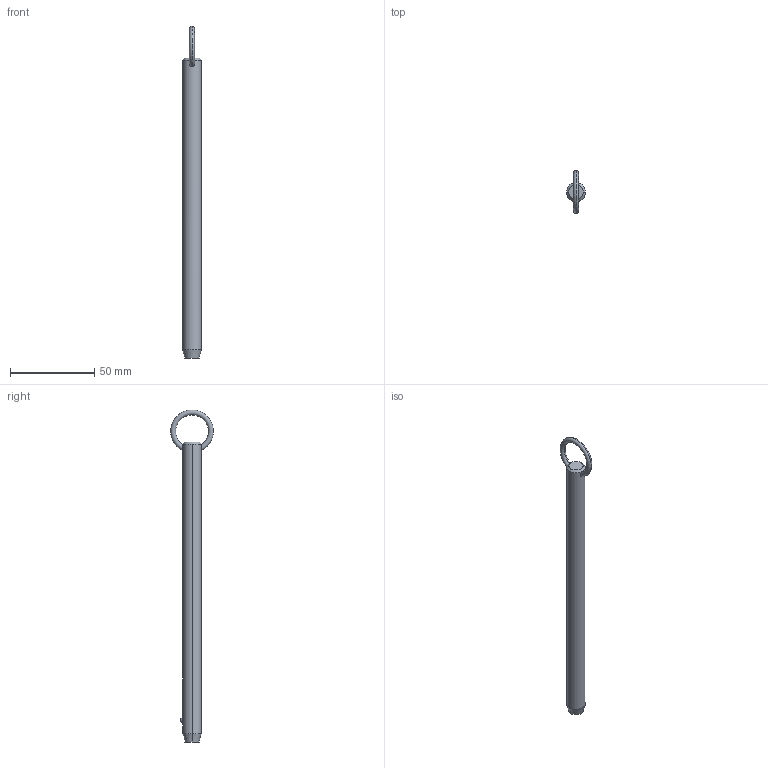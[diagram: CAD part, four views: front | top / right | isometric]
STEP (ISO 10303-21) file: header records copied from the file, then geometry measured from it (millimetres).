
FILE_DESCRIPTION (( 'STEP AP203' ), '1' );
FILE_NAME ('P1250.050-620.step', '2019-07-29T20:41:26', ( '' ), ( '' ), 'SwSTEP 2.0', 'SolidWorks 2017', '' );
FILE_SCHEMA (( 'CONFIG_CONTROL_DESIGN' ));
Length unit declared in the file: millimetre
Products named in the file (1): P1250.050-620
Bounding box: 11.1 x 25.32 x 197.05 mm (x, y, z)
Volume: 17517.3 mm3; surface area: 6863.3 mm2
Topology: 1 solids, 1 shells, 12 faces, 28 edges, 17 vertices
Faces by surface type: cone 4, torus 2, sphere 2, cylinder 2, plane 2
Entity records: 523 total; most frequent: CARTESIAN_POINT 190, DIRECTION 56, ORIENTED_EDGE 48, AXIS2_PLACEMENT_3D 25, EDGE_CURVE 24, EDGE_LOOP 15, VERTEX_POINT 15, FACE_OUTER_BOUND 12
